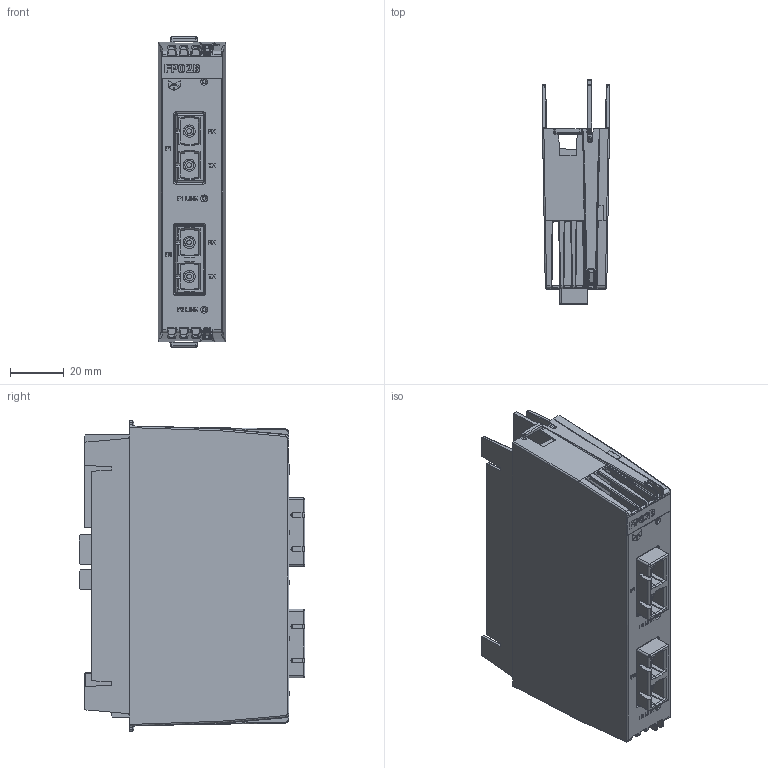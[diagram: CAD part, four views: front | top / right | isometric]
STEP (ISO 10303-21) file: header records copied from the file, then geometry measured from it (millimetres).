
FILE_DESCRIPTION(/* description */ (''),/* implementation_level */ '2;1');
FILE_NAME(/* name */ 'C:\Users\Public\Documents\Autodesk\Inventor 2023\FP02B_Simplified.stp',/* time_stamp */ '2024-10-23T21:19:53+02:00',/* author */ ('shoma'),/* organization */ (''),/* preprocessor_version */ 'ST-DEVELOPER v19',/* originating_system */ 'Autodesk Inventor 2023',/* authorisation */ '');
FILE_SCHEMA (('AUTOMOTIVE_DESIGN { 1 0 10303 214 3 1 1 }'));
Products named in the file (1): FP02B_Simplified
Bounding box: 24.95 x 83.97 x 115.5 mm (x, y, z)
Volume: 111680 mm3; surface area: 53769.6 mm2
Topology: 2 solids, 2 shells, 2299 faces, 6218 edges, 4014 vertices
Faces by surface type: plane 1328, cylinder 712, bspline 237, sphere 16, cone 3, torus 3
Full cylindrical faces by diameter (mm): 0.016 x2, 0.3 x2, 1 x8, 1.27 x4, 1.762 x4, 1.9 x4, 2.5 x1, 3.369 x4, 4.519 x4
Entity records: 78055 total; most frequent: CARTESIAN_POINT 17839, ORIENTED_EDGE 12376, DIRECTION 11620, EDGE_CURVE 6188, LINE 4324, VECTOR 4324, VERTEX_POINT 4014, AXIS2_PLACEMENT_3D 3648
